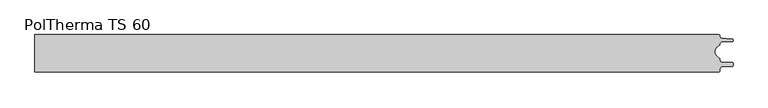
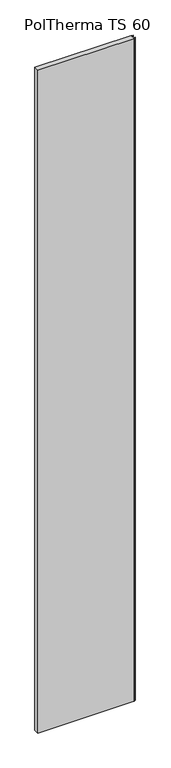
"""IFC4 building model written with IfcOpenShell, lengths in millimetres: plate geometry, Europanels_Poltherma TS_Vt : PolTherma TS 60."""

from ifc_helpers import new_model, si_unit, point, frame_2d, origin, origin_with_axes, place, context, project, spatial, polyline, circle_curve, trimmed, segment, composite_curve, outline, extrude, source, transform, mapped, element, save


def poltherma_ts_60_656cde4c(model_context):
    return source(origin(), model_context, "Body", "SweptSolid", [
        extrude(outline(composite_curve([segment(trimmed(circle_curve(frame_2d((546.5011047, 28.0)), 2.0), [point((546.5011047, 30.0))], [point((548.5011047, 28.0))], False, "CARTESIAN"), True, "CONTINUOUS"), segment(polyline([(548.5011047, 28.0), (548.5011047, 26.2557869)]), True, "CONTINUOUS"), segment(trimmed(circle_curve(frame_2d((550.5011047, 26.2557869)), 2.0), [point((548.5011047, 26.2557869))], [point((550.3765791, 24.2596673))], True, "CARTESIAN"), True, "CONTINUOUS"), segment(polyline([(550.3765791, 24.2596673), (567.4819354, 23.19257)]), True, "CONTINUOUS"), segment(trimmed(circle_curve(frame_2d((567.3463498, 21.0191602)), 2.1776348), [point((567.4819354, 23.19257))], [point((567.4398284, 18.8435327))], False, "CARTESIAN"), True, "CONTINUOUS"), segment(polyline([(567.4398284, 18.8435327), (550.4152514, 18.1120505)]), True, "CONTINUOUS"), segment(trimmed(circle_curve(frame_2d((550.5011047, 16.113894)), 2.0), [point((550.4152514, 18.1120505))], [point((548.5011047, 16.113894))], True, "CARTESIAN"), True, "CONTINUOUS"), segment(polyline([(548.5011047, 16.113894), (548.5011047, 13.3234285)]), True, "CONTINUOUS"), segment(trimmed(circle_curve(frame_2d((551.354658, 2.7)), 11.0), [point((548.5011047, 13.3234285))], [point((548.5011047, -7.9234285))], True, "CARTESIAN"), True, "CONTINUOUS"), segment(polyline([(548.5011047, -7.9234285), (548.5011047, -10.7071263), (548.5011047, -11.9117672)]), True, "CONTINUOUS"), segment(trimmed(circle_curve(frame_2d((550.3011047, -11.9117672)), 1.8), [point((548.5011047, -11.9117672))], [point((550.2244834, -13.7101357))], True, "CARTESIAN"), True, "CONTINUOUS"), segment(polyline([(550.2244834, -13.7101357), (567.5862394, -14.4498501)]), True, "CONTINUOUS"), segment(trimmed(circle_curve(frame_2d((567.5011047, -16.4480373)), 2.0), [point((567.5862394, -14.4498501))], [point((569.5011047, -16.4480373))], False, "CARTESIAN"), True, "CONTINUOUS"), segment(polyline([(569.5011047, -16.4480373), (569.5011047, -19.1874198)]), True, "CONTINUOUS"), segment(trimmed(circle_curve(frame_2d((567.5011047, -19.1874198)), 2.0), [point((569.5011047, -19.1874198))], [point((567.624345, -21.1836192))], False, "CARTESIAN"), True, "CONTINUOUS"), segment(polyline([(567.624345, -21.1836192), (550.3778643, -22.2483736)]), True, "CONTINUOUS"), segment(trimmed(circle_curve(frame_2d((550.5011047, -24.244573)), 2.0), [point((550.3778643, -22.2483736))], [point((548.5011047, -24.244573))], True, "CARTESIAN"), True, "CONTINUOUS"), segment(polyline([(548.5011047, -24.244573), (548.5011047, -28.0)]), True, "CONTINUOUS"), segment(trimmed(circle_curve(frame_2d((546.5011047, -28.0)), 2.0), [point((548.5011047, -28.0))], [point((546.5011047, -30.0))], False, "CARTESIAN"), True, "CONTINUOUS"), segment(polyline([(546.5011047, -30.0), (-550.0, -30.0), (-550.0, 30.0), (546.5011047, 30.0)]), True, "CONTINUOUS")], self_intersect=False)), origin_with_axes(), (0.0, 0.0, 1.0), 8000.0),
    ])


if __name__ == "__main__":
    model = new_model("IFC4")
    model_context = context("Model", 3, world=origin())
    ifc_project = project(units=[si_unit("LENGTHUNIT", "METRE", prefix="MILLI")], contexts=[model_context])
    site = spatial("IfcSite", under=ifc_project)
    building = spatial("IfcBuilding", under=site)
    placement = place(None, origin())
    poltherma_ts_60_shape = poltherma_ts_60_656cde4c(model_context)
    element("IfcPlate", 1, ObjectType="Europanels_Poltherma TS_Vt : PolTherma TS 60", at=placement, inside=building, context=model_context, shape_type="MappedRepresentation", body=[
        mapped(poltherma_ts_60_shape, transform((0.0, 0.0, 0.0), x_axis=(1.0, 0.0, 0.0), y_axis=(0.0, 1.0, 0.0), z_axis=(0.0, 0.0, 1.0))),
    ])
    save(model, "model.ifc")
